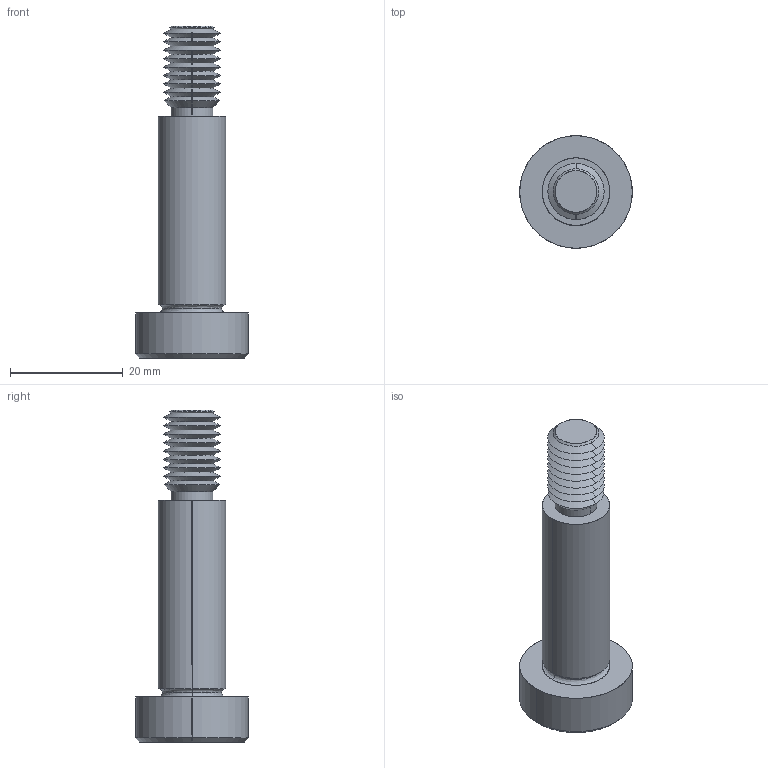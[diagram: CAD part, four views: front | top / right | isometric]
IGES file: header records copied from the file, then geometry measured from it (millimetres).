
Start section: SolidWorks IGES file using analytic representation for surfaces
Global section: file name: C:\Users\IanO\Documents\Temp Folder\GENERAL\SCREW REVISION\P0130_v2\P0130.T5_v2_20220106_IGES\P0130.120-035-T5.igs; native system: SolidWorks 2019; preprocessor: SolidWorks 2019; author: IanO; date: 220106.224755; units: millimetre
Bounding box: 20 x 20 x 59 mm (x, y, z)
Surface area: 3373.9 mm2 (no closed solid volume)
Topology: 0 solids, 0 shells, 76 faces, 564 edges, 562 vertices
Faces by surface type: revolution 56, bspline 20
